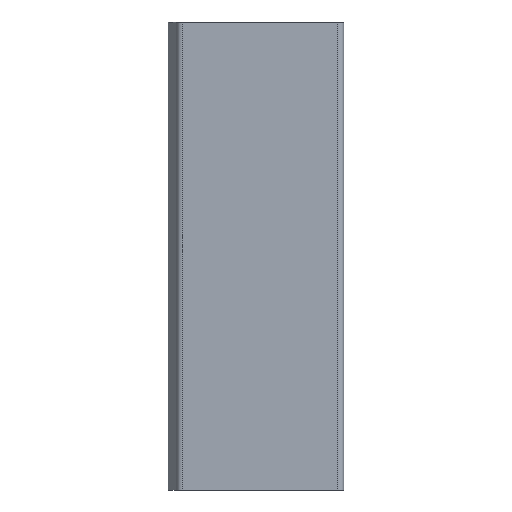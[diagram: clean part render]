
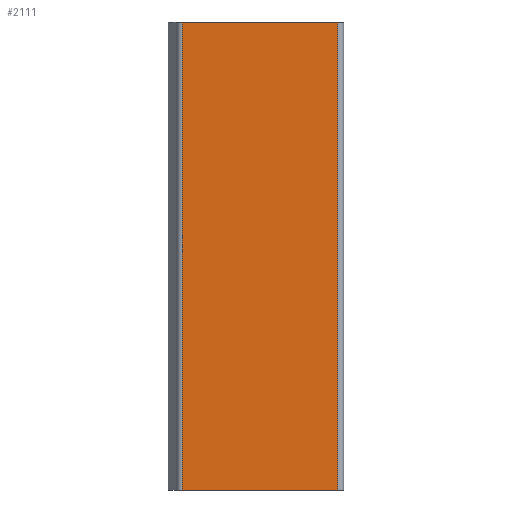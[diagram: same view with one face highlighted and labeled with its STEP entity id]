
A CAD part, left-side view. The second image highlights one B-rep face of the part: STEP entity #2111.
In plain terms, the highlighted planar face has unit normal (-1, 0, 0).
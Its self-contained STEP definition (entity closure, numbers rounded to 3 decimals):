
#71 = CARTESIAN_POINT ( 'NONE',  ( -22.25, -28., 0. ) ) ;
#90 = VECTOR ( 'NONE', #2105, 1000. ) ;
#128 = ORIENTED_EDGE ( 'NONE', *, *, #870, .F. ) ;
#137 = ORIENTED_EDGE ( 'NONE', *, *, #1897, .F. ) ;
#192 = VERTEX_POINT ( 'NONE', #71 ) ;
#387 = DIRECTION ( 'NONE',  ( 0., 0., -1. ) ) ;
#485 = LINE ( 'NONE', #1861, #653 ) ;
#507 = CARTESIAN_POINT ( 'NONE',  ( -22.25, 25.252, 160. ) ) ;
#512 = LINE ( 'NONE', #1560, #1916 ) ;
#513 = LINE ( 'NONE', #612, #1122 ) ;
#591 = AXIS2_PLACEMENT_3D ( 'NONE', #507, #1226, #698 ) ;
#612 = CARTESIAN_POINT ( 'NONE',  ( -22.25, -28., 160. ) ) ;
#653 = VECTOR ( 'NONE', #387, 1000. ) ;
#666 = CARTESIAN_POINT ( 'NONE',  ( -22.25, -28., 160. ) ) ;
#698 = DIRECTION ( 'NONE',  ( 0., 1., 0. ) ) ;
#870 = EDGE_CURVE ( 'NONE', #2120, #2129, #512, .T. ) ;
#904 = VERTEX_POINT ( 'NONE', #1005 ) ;
#994 = ORIENTED_EDGE ( 'NONE', *, *, #1556, .T. ) ;
#1005 = CARTESIAN_POINT ( 'NONE',  ( -22.25, 25.252, 0. ) ) ;
#1122 = VECTOR ( 'NONE', #1924, 1000. ) ;
#1226 = DIRECTION ( 'NONE',  ( 1., 0., 0. ) ) ;
#1262 = LINE ( 'NONE', #1883, #90 ) ;
#1408 = EDGE_LOOP ( 'NONE', ( #1432, #137, #128, #994 ) ) ;
#1432 = ORIENTED_EDGE ( 'NONE', *, *, #1785, .T. ) ;
#1556 = EDGE_CURVE ( 'NONE', #2120, #904, #485, .T. ) ;
#1560 = CARTESIAN_POINT ( 'NONE',  ( -22.25, 25.252, 160. ) ) ;
#1785 = EDGE_CURVE ( 'NONE', #904, #192, #1262, .T. ) ;
#1791 = CARTESIAN_POINT ( 'NONE',  ( -22.25, 25.252, 160. ) ) ;
#1861 = CARTESIAN_POINT ( 'NONE',  ( -22.25, 25.252, 160. ) ) ;
#1883 = CARTESIAN_POINT ( 'NONE',  ( -22.25, 25.252, 0. ) ) ;
#1897 = EDGE_CURVE ( 'NONE', #2129, #192, #513, .T. ) ;
#1916 = VECTOR ( 'NONE', #2311, 1000. ) ;
#1924 = DIRECTION ( 'NONE',  ( 0., 0., -1. ) ) ;
#2105 = DIRECTION ( 'NONE',  ( 0., -1., 0. ) ) ;
#2111 = ADVANCED_FACE ( 'NONE', ( #2235 ), #2176, .F. ) ;
#2120 = VERTEX_POINT ( 'NONE', #1791 ) ;
#2129 = VERTEX_POINT ( 'NONE', #666 ) ;
#2176 = PLANE ( 'NONE',  #591 ) ;
#2235 = FACE_OUTER_BOUND ( 'NONE', #1408, .T. ) ;
#2311 = DIRECTION ( 'NONE',  ( 0., -1., 0. ) ) ;
